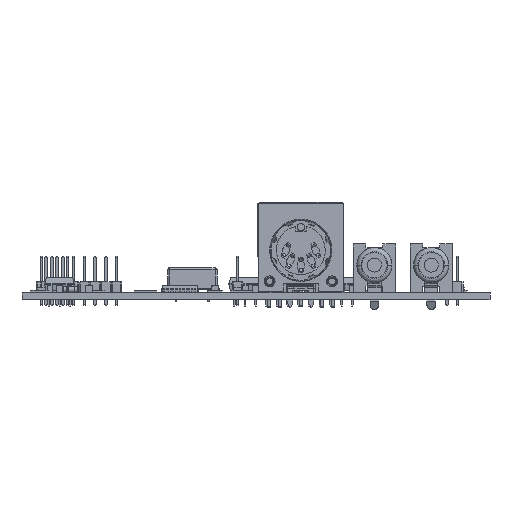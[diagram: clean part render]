
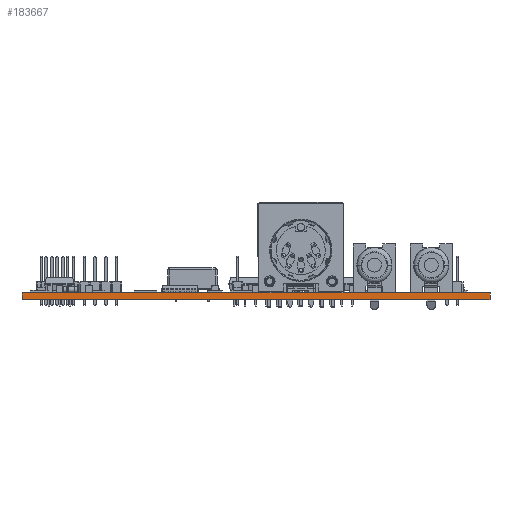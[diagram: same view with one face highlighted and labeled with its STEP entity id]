
A CAD part, front view. The second image highlights one B-rep face of the part: STEP entity #183667.
In plain terms, the highlighted planar face has unit normal (0, -1, 0).
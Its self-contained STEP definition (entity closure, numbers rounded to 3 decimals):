
#169489 = PLANE('',#169490);
#169490 = AXIS2_PLACEMENT_3D('',#169491,#169492,#169493);
#169491 = CARTESIAN_POINT('',(135.427,-81.902,1.6));
#169492 = DIRECTION('',(0.,0.,1.));
#169493 = DIRECTION('',(1.,0.,-0.));
#169544 = PLANE('',#169545);
#169545 = AXIS2_PLACEMENT_3D('',#169546,#169547,#169548);
#169546 = CARTESIAN_POINT('',(135.427,-81.902,0.));
#169547 = DIRECTION('',(0.,0.,1.));
#169548 = DIRECTION('',(1.,0.,-0.));
#169850 = VERTEX_POINT('',#169851);
#169851 = CARTESIAN_POINT('',(79.33,-142.5,0.));
#169865 = PLANE('',#169866);
#169866 = AXIS2_PLACEMENT_3D('',#169867,#169868,#169869);
#169867 = CARTESIAN_POINT('',(79.3,-129.14,0.));
#169868 = DIRECTION('',(1.,0.002,-0.));
#169869 = DIRECTION('',(0.002,-1.,0.));
#169877 = EDGE_CURVE('',#169850,#169878,#169880,.T.);
#169878 = VERTEX_POINT('',#169879);
#169879 = CARTESIAN_POINT('',(189.95,-142.5,0.));
#169880 = SURFACE_CURVE('',#169881,(#169885,#169892),.PCURVE_S1.);
#169881 = LINE('',#169882,#169883);
#169882 = CARTESIAN_POINT('',(79.33,-142.5,0.));
#169883 = VECTOR('',#169884,1.);
#169884 = DIRECTION('',(1.,0.,0.));
#169885 = PCURVE('',#169544,#169886);
#169886 = DEFINITIONAL_REPRESENTATION('',(#169887),#169891);
#169887 = LINE('',#169888,#169889);
#169888 = CARTESIAN_POINT('',(-56.097,-60.598));
#169889 = VECTOR('',#169890,1.);
#169890 = DIRECTION('',(1.,0.));
#169891 = ( GEOMETRIC_REPRESENTATION_CONTEXT(2) 
PARAMETRIC_REPRESENTATION_CONTEXT() REPRESENTATION_CONTEXT('2D SPACE',''
  ) );
#169892 = PCURVE('',#169893,#169898);
#169893 = PLANE('',#169894);
#169894 = AXIS2_PLACEMENT_3D('',#169895,#169896,#169897);
#169895 = CARTESIAN_POINT('',(79.33,-142.5,0.));
#169896 = DIRECTION('',(0.,1.,0.));
#169897 = DIRECTION('',(1.,0.,0.));
#169898 = DEFINITIONAL_REPRESENTATION('',(#169899),#169903);
#169899 = LINE('',#169900,#169901);
#169900 = CARTESIAN_POINT('',(0.,0.));
#169901 = VECTOR('',#169902,1.);
#169902 = DIRECTION('',(1.,0.));
#169903 = ( GEOMETRIC_REPRESENTATION_CONTEXT(2) 
PARAMETRIC_REPRESENTATION_CONTEXT() REPRESENTATION_CONTEXT('2D SPACE',''
  ) );
#169921 = PLANE('',#169922);
#169922 = AXIS2_PLACEMENT_3D('',#169923,#169924,#169925);
#169923 = CARTESIAN_POINT('',(189.95,-142.5,0.));
#169924 = DIRECTION('',(-1.,-0.001,0.));
#169925 = DIRECTION('',(-0.001,1.,0.));
#177237 = VERTEX_POINT('',#177238);
#177238 = CARTESIAN_POINT('',(79.33,-142.5,1.6));
#177259 = EDGE_CURVE('',#177237,#177260,#177262,.T.);
#177260 = VERTEX_POINT('',#177261);
#177261 = CARTESIAN_POINT('',(189.95,-142.5,1.6));
#177262 = SURFACE_CURVE('',#177263,(#177267,#177274),.PCURVE_S1.);
#177263 = LINE('',#177264,#177265);
#177264 = CARTESIAN_POINT('',(79.33,-142.5,1.6));
#177265 = VECTOR('',#177266,1.);
#177266 = DIRECTION('',(1.,0.,0.));
#177267 = PCURVE('',#169489,#177268);
#177268 = DEFINITIONAL_REPRESENTATION('',(#177269),#177273);
#177269 = LINE('',#177270,#177271);
#177270 = CARTESIAN_POINT('',(-56.097,-60.598));
#177271 = VECTOR('',#177272,1.);
#177272 = DIRECTION('',(1.,0.));
#177273 = ( GEOMETRIC_REPRESENTATION_CONTEXT(2) 
PARAMETRIC_REPRESENTATION_CONTEXT() REPRESENTATION_CONTEXT('2D SPACE',''
  ) );
#177274 = PCURVE('',#169893,#177275);
#177275 = DEFINITIONAL_REPRESENTATION('',(#177276),#177280);
#177276 = LINE('',#177277,#177278);
#177277 = CARTESIAN_POINT('',(0.,-1.6));
#177278 = VECTOR('',#177279,1.);
#177279 = DIRECTION('',(1.,0.));
#177280 = ( GEOMETRIC_REPRESENTATION_CONTEXT(2) 
PARAMETRIC_REPRESENTATION_CONTEXT() REPRESENTATION_CONTEXT('2D SPACE',''
  ) );
#183619 = EDGE_CURVE('',#169850,#177237,#183620,.T.);
#183620 = SURFACE_CURVE('',#183621,(#183625,#183632),.PCURVE_S1.);
#183621 = LINE('',#183622,#183623);
#183622 = CARTESIAN_POINT('',(79.33,-142.5,0.));
#183623 = VECTOR('',#183624,1.);
#183624 = DIRECTION('',(0.,0.,1.));
#183625 = PCURVE('',#169865,#183626);
#183626 = DEFINITIONAL_REPRESENTATION('',(#183627),#183631);
#183627 = LINE('',#183628,#183629);
#183628 = CARTESIAN_POINT('',(13.36,0.));
#183629 = VECTOR('',#183630,1.);
#183630 = DIRECTION('',(0.,-1.));
#183631 = ( GEOMETRIC_REPRESENTATION_CONTEXT(2) 
PARAMETRIC_REPRESENTATION_CONTEXT() REPRESENTATION_CONTEXT('2D SPACE',''
  ) );
#183632 = PCURVE('',#169893,#183633);
#183633 = DEFINITIONAL_REPRESENTATION('',(#183634),#183638);
#183634 = LINE('',#183635,#183636);
#183635 = CARTESIAN_POINT('',(0.,0.));
#183636 = VECTOR('',#183637,1.);
#183637 = DIRECTION('',(0.,-1.));
#183638 = ( GEOMETRIC_REPRESENTATION_CONTEXT(2) 
PARAMETRIC_REPRESENTATION_CONTEXT() REPRESENTATION_CONTEXT('2D SPACE',''
  ) );
#183667 = ADVANCED_FACE('',(#183668),#169893,.F.);
#183668 = FACE_BOUND('',#183669,.F.);
#183669 = EDGE_LOOP('',(#183670,#183671,#183672,#183693));
#183670 = ORIENTED_EDGE('',*,*,#183619,.T.);
#183671 = ORIENTED_EDGE('',*,*,#177259,.T.);
#183672 = ORIENTED_EDGE('',*,*,#183673,.F.);
#183673 = EDGE_CURVE('',#169878,#177260,#183674,.T.);
#183674 = SURFACE_CURVE('',#183675,(#183679,#183686),.PCURVE_S1.);
#183675 = LINE('',#183676,#183677);
#183676 = CARTESIAN_POINT('',(189.95,-142.5,0.));
#183677 = VECTOR('',#183678,1.);
#183678 = DIRECTION('',(0.,0.,1.));
#183679 = PCURVE('',#169893,#183680);
#183680 = DEFINITIONAL_REPRESENTATION('',(#183681),#183685);
#183681 = LINE('',#183682,#183683);
#183682 = CARTESIAN_POINT('',(110.62,0.));
#183683 = VECTOR('',#183684,1.);
#183684 = DIRECTION('',(0.,-1.));
#183685 = ( GEOMETRIC_REPRESENTATION_CONTEXT(2) 
PARAMETRIC_REPRESENTATION_CONTEXT() REPRESENTATION_CONTEXT('2D SPACE',''
  ) );
#183686 = PCURVE('',#169921,#183687);
#183687 = DEFINITIONAL_REPRESENTATION('',(#183688),#183692);
#183688 = LINE('',#183689,#183690);
#183689 = CARTESIAN_POINT('',(0.,0.));
#183690 = VECTOR('',#183691,1.);
#183691 = DIRECTION('',(0.,-1.));
#183692 = ( GEOMETRIC_REPRESENTATION_CONTEXT(2) 
PARAMETRIC_REPRESENTATION_CONTEXT() REPRESENTATION_CONTEXT('2D SPACE',''
  ) );
#183693 = ORIENTED_EDGE('',*,*,#169877,.F.);
